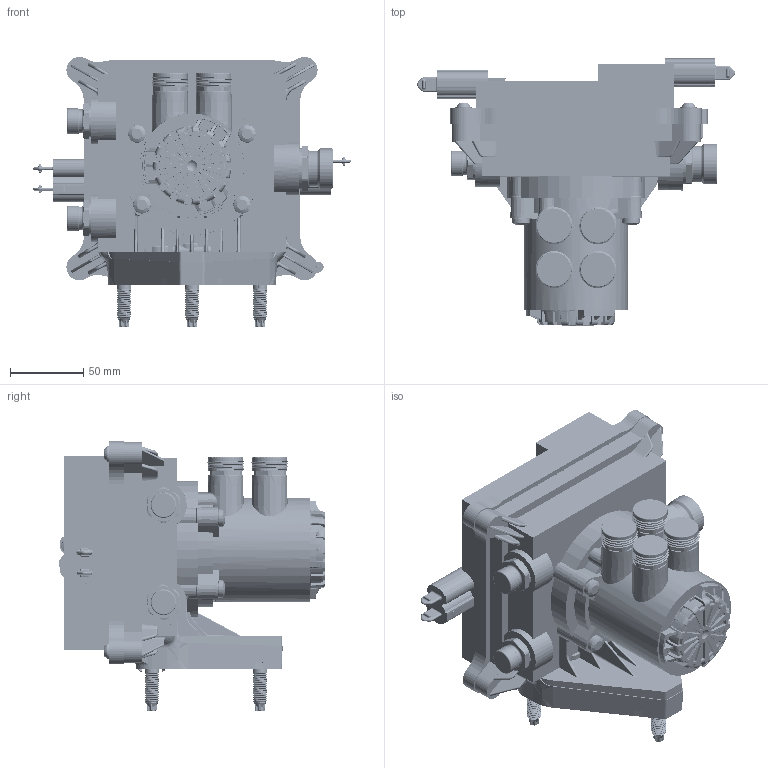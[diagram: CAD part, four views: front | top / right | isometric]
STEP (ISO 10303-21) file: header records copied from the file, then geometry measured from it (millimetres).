
FILE_DESCRIPTION((''),'2;1');
FILE_NAME('H168670','2022-05-20T12:42:16',('sripaskaraa'),('Haldex Brake Products'),'CREO PARAMETRIC BY PTC INC, 2018500','CREO PARAMETRIC BY PTC INC, 2018500','');
FILE_SCHEMA(('AUTOMOTIVE_DESIGN { 1 0 10303 214 1 1 1 1 }'));
Products named in the file (1): H168670
Bounding box: 217.49 x 182.73 x 184.96 mm (x, y, z)
Surface area: 180020.6 mm2
Topology: 11 solids, 12 shells, 8793 faces, 24543 edges, 15925 vertices
Faces by surface type: plane 5865, cylinder 1418, torus 584, bspline 496, cone 283, sphere 114, extrusion 33
Entity records: 380285 total; most frequent: CARTESIAN_POINT 98827, ORIENTED_EDGE 48926, DIRECTION 41922, EDGE_CURVE 24463, VECTOR 17725, LINE 17692, VERTEX_POINT 15923, AXIS2_PLACEMENT_3D 12097
